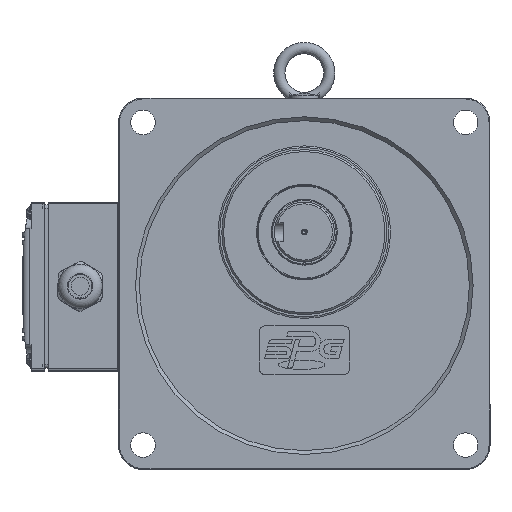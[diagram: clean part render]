
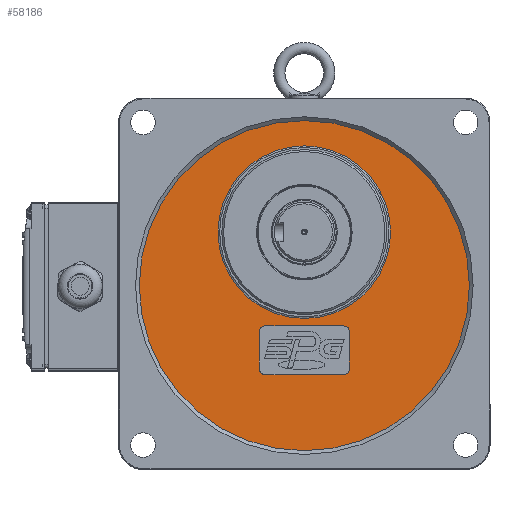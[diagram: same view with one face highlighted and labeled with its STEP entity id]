
A CAD part, top view. The second image highlights one B-rep face of the part: STEP entity #58186.
In plain terms, the highlighted planar face has unit normal (0, 0, 1).
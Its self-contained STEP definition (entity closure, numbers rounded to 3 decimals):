
#2208=LINE('',#125983,#4877);
#2209=LINE('',#125987,#4878);
#2210=LINE('',#125991,#4879);
#2211=LINE('',#125995,#4880);
#4877=VECTOR('',#75773,10.);
#4878=VECTOR('',#75776,10.);
#4879=VECTOR('',#75779,10.);
#4880=VECTOR('',#75782,10.);
#7171=FACE_BOUND('',#14333,.T.);
#7172=FACE_BOUND('',#14334,.T.);
#7839=PLANE('',#63598);
#10684=FACE_OUTER_BOUND('',#14332,.T.);
#14332=EDGE_LOOP('',(#46801));
#14333=EDGE_LOOP('',(#46802,#46803,#46804,#46805,#46806,#46807,#46808,#46809));
#14334=EDGE_LOOP('',(#46810));
#18022=CIRCLE('',#63596,46.);
#18024=CIRCLE('',#63599,88.);
#18025=CIRCLE('',#63600,3.);
#18026=CIRCLE('',#63601,3.);
#18027=CIRCLE('',#63602,3.);
#18028=CIRCLE('',#63603,3.);
#25116=VERTEX_POINT('',#125975);
#25117=VERTEX_POINT('',#125979);
#25118=VERTEX_POINT('',#125981);
#25119=VERTEX_POINT('',#125982);
#25120=VERTEX_POINT('',#125984);
#25121=VERTEX_POINT('',#125986);
#25122=VERTEX_POINT('',#125988);
#25123=VERTEX_POINT('',#125990);
#25124=VERTEX_POINT('',#125992);
#25125=VERTEX_POINT('',#125994);
#32590=EDGE_CURVE('',#25116,#25116,#18022,.T.);
#32592=EDGE_CURVE('',#25117,#25117,#18024,.T.);
#32593=EDGE_CURVE('',#25118,#25119,#2208,.T.);
#32594=EDGE_CURVE('',#25120,#25119,#18025,.T.);
#32595=EDGE_CURVE('',#25120,#25121,#2209,.T.);
#32596=EDGE_CURVE('',#25122,#25121,#18026,.T.);
#32597=EDGE_CURVE('',#25122,#25123,#2210,.T.);
#32598=EDGE_CURVE('',#25124,#25123,#18027,.T.);
#32599=EDGE_CURVE('',#25124,#25125,#2211,.T.);
#32600=EDGE_CURVE('',#25118,#25125,#18028,.T.);
#46801=ORIENTED_EDGE('',*,*,#32592,.T.);
#46802=ORIENTED_EDGE('',*,*,#32593,.T.);
#46803=ORIENTED_EDGE('',*,*,#32594,.F.);
#46804=ORIENTED_EDGE('',*,*,#32595,.T.);
#46805=ORIENTED_EDGE('',*,*,#32596,.F.);
#46806=ORIENTED_EDGE('',*,*,#32597,.T.);
#46807=ORIENTED_EDGE('',*,*,#32598,.F.);
#46808=ORIENTED_EDGE('',*,*,#32599,.T.);
#46809=ORIENTED_EDGE('',*,*,#32600,.F.);
#46810=ORIENTED_EDGE('',*,*,#32590,.F.);
#58186=ADVANCED_FACE('',(#10684,#7171,#7172),#7839,.F.);
#63596=AXIS2_PLACEMENT_3D('',#125976,#75765,#75766);
#63598=AXIS2_PLACEMENT_3D('',#125978,#75769,#75770);
#63599=AXIS2_PLACEMENT_3D('',#125980,#75771,#75772);
#63600=AXIS2_PLACEMENT_3D('',#125985,#75774,#75775);
#63601=AXIS2_PLACEMENT_3D('',#125989,#75777,#75778);
#63602=AXIS2_PLACEMENT_3D('',#125993,#75780,#75781);
#63603=AXIS2_PLACEMENT_3D('',#125996,#75783,#75784);
#75765=DIRECTION('center_axis',(0.,0.,1.));
#75766=DIRECTION('ref_axis',(-1.,0.,0.));
#75769=DIRECTION('center_axis',(0.,0.,-1.));
#75770=DIRECTION('ref_axis',(-1.,0.,0.));
#75771=DIRECTION('center_axis',(0.,0.,1.));
#75772=DIRECTION('ref_axis',(-1.,0.,0.));
#75773=DIRECTION('',(0.,1.,0.));
#75774=DIRECTION('center_axis',(0.,0.,1.));
#75775=DIRECTION('ref_axis',(-0.707,0.707,0.));
#75776=DIRECTION('',(1.,0.,0.));
#75777=DIRECTION('center_axis',(0.,0.,1.));
#75778=DIRECTION('ref_axis',(0.707,0.707,0.));
#75779=DIRECTION('',(0.,-1.,0.));
#75780=DIRECTION('center_axis',(0.,0.,1.));
#75781=DIRECTION('ref_axis',(0.707,-0.707,0.));
#75782=DIRECTION('',(-1.,0.,0.));
#75783=DIRECTION('center_axis',(0.,0.,1.));
#75784=DIRECTION('ref_axis',(-0.707,-0.707,0.));
#125975=CARTESIAN_POINT('',(-54.701,13.485,31.));
#125976=CARTESIAN_POINT('Origin',(-8.701,13.485,31.));
#125978=CARTESIAN_POINT('Origin',(-8.701,-15.015,31.));
#125979=CARTESIAN_POINT('',(79.299,-15.015,31.));
#125980=CARTESIAN_POINT('Origin',(-8.701,-15.015,31.));
#125981=CARTESIAN_POINT('',(-32.701,-59.515,31.));
#125982=CARTESIAN_POINT('',(-32.701,-39.515,31.));
#125983=CARTESIAN_POINT('',(-32.701,-25.765,31.));
#125984=CARTESIAN_POINT('',(-29.701,-36.515,31.));
#125985=CARTESIAN_POINT('Origin',(-29.701,-39.515,31.));
#125986=CARTESIAN_POINT('',(12.299,-36.515,31.));
#125987=CARTESIAN_POINT('',(3.299,-36.515,31.));
#125988=CARTESIAN_POINT('',(15.299,-39.515,31.));
#125989=CARTESIAN_POINT('Origin',(12.299,-39.515,31.));
#125990=CARTESIAN_POINT('',(15.299,-59.515,31.));
#125991=CARTESIAN_POINT('',(15.299,-38.765,31.));
#125992=CARTESIAN_POINT('',(12.299,-62.515,31.));
#125993=CARTESIAN_POINT('Origin',(12.299,-59.515,31.));
#125994=CARTESIAN_POINT('',(-29.701,-62.515,31.));
#125995=CARTESIAN_POINT('',(-20.701,-62.515,31.));
#125996=CARTESIAN_POINT('Origin',(-29.701,-59.515,31.));
